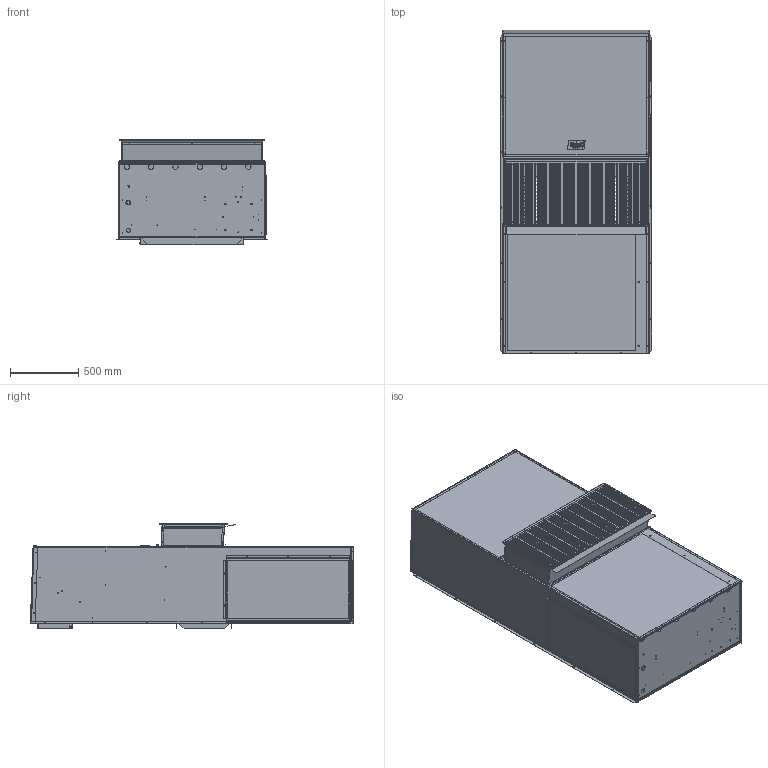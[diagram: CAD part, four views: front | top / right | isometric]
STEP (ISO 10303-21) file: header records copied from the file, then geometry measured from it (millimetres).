
FILE_DESCRIPTION (( 'STEP AP214' ), '1' );
FILE_NAME ('STEP_1200_7.STEP', '2016-06-28T13:17:10', ( 'BMC' ), ( 'Bard Manufacturing Co., Inc.' ), 'SwSTEP 2.0', 'SolidWorks 2016', '' );
FILE_SCHEMA (( 'AUTOMOTIVE_DESIGN' ));
Length unit declared in the file: inch
Products named in the file (29): 106-344; 106-307; 114-283; 108-251; 100-860; 118-086_with hexes; 112-484; 118-085_with hexes; 126-489; 111x034_entire assembly; 100-870; toggle lock; 104-1342; 110-035; 152-600; 100-733; STEP_1200_7; 501-841_EXPLODED; 1913-017-0915; 1913-017-1612; 100-841; 5252-034; 126-476; 142-172; 132-256; 152-328; 515-279; New 5 ton DC Unit 100% vent hood; 114-279
Assembly tree (41 placements, depth 3):
  STEP_1200_7
    111x034_entire assembly
      110-035  x2
      toggle lock  x11
    118-085_with hexes
    118-086_with hexes  x2
    108-251
    106-307
    515-279
      114-279
    152-328
    132-256
    142-172
    126-476
    5252-034
    501-841_EXPLODED
      100-841
      1913-017-1612
      1913-017-0915
    100-733
    New 5 ton DC Unit 100% vent hood
      152-600
      104-1342  x2
      100-870
      126-489
      112-484
      100-860
      114-283
      106-344
Bounding box: 1111.02 x 2364.74 x 769.67 mm (x, y, z)
Volume: 10337010.1 mm3; surface area: 20636270.8 mm2
Topology: 40 solids, 40 shells, 4786 faces, 13314 edges, 8681 vertices
Faces by surface type: plane 2779, cylinder 1164, bspline 843
Entity records: 232835 total; most frequent: CARTESIAN_POINT 57521, ORIENTED_EDGE 25014, DIRECTION 22063, EDGE_CURVE 12507, LINE 8209, VECTOR 8209, VERTEX_POINT 8145, AXIS2_PLACEMENT_3D 6927
